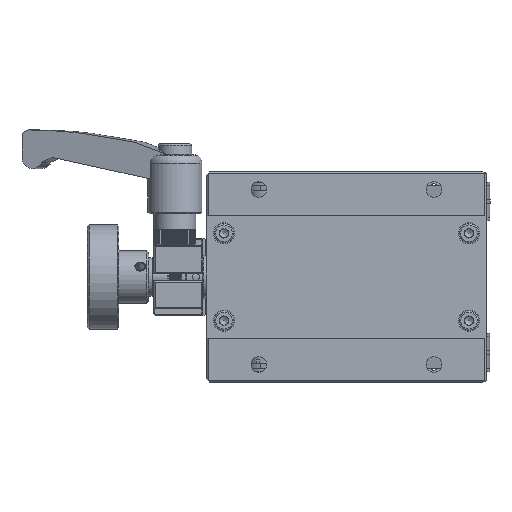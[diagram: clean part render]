
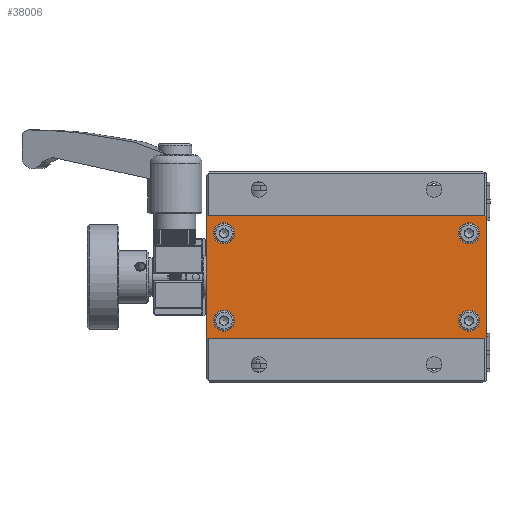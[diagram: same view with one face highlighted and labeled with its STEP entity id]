
A CAD part, front view. The second image highlights one B-rep face of the part: STEP entity #38006.
In plain terms, the highlighted planar face has unit normal (0, -1, 0).
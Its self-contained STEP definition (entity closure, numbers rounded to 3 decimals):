
#1001 = DIRECTION ( 'NONE',  ( 0., -1., 0. ) ) ;
#4164 = CIRCLE ( 'NONE', #46686, 3. ) ;
#4574 = CARTESIAN_POINT ( 'NONE',  ( 0., -42.176, -47.5 ) ) ;
#5066 = FACE_BOUND ( 'NONE', #56378, .T. ) ;
#5696 = VECTOR ( 'NONE', #68069, 1000. ) ;
#7077 = ORIENTED_EDGE ( 'NONE', *, *, #7969, .F. ) ;
#7969 = EDGE_CURVE ( 'NONE', #60260, #61402, #10167, .T. ) ;
#9304 = ORIENTED_EDGE ( 'NONE', *, *, #73641, .T. ) ;
#10167 = LINE ( 'NONE', #15847, #70661 ) ;
#10248 = CARTESIAN_POINT ( 'NONE',  ( 5., -42.176, -17.5 ) ) ;
#13299 = VERTEX_POINT ( 'NONE', #42228 ) ;
#14542 = CARTESIAN_POINT ( 'NONE',  ( 0., -42.176, -12.5 ) ) ;
#15847 = CARTESIAN_POINT ( 'NONE',  ( 0., -42.176, -12.5 ) ) ;
#16480 = FACE_BOUND ( 'NONE', #33137, .T. ) ;
#16848 = DIRECTION ( 'NONE',  ( 0., 0., 1. ) ) ;
#17105 = CIRCLE ( 'NONE', #65686, 3. ) ;
#17213 = DIRECTION ( 'NONE',  ( 0., -1., 0. ) ) ;
#17216 = PLANE ( 'NONE',  #52217 ) ;
#21203 = EDGE_CURVE ( 'NONE', #13299, #13299, #17105, .T. ) ;
#24177 = ORIENTED_EDGE ( 'NONE', *, *, #55712, .F. ) ;
#25887 = LINE ( 'NONE', #55523, #60552 ) ;
#27078 = CARTESIAN_POINT ( 'NONE',  ( 75., -42.176, -17.5 ) ) ;
#27886 = VERTEX_POINT ( 'NONE', #68539 ) ;
#28787 = ORIENTED_EDGE ( 'NONE', *, *, #69512, .F. ) ;
#33137 = EDGE_LOOP ( 'NONE', ( #65825 ) ) ;
#33147 = DIRECTION ( 'NONE',  ( 0., 0., 1. ) ) ;
#33521 = DIRECTION ( 'NONE',  ( 0., -1., 0. ) ) ;
#34712 = DIRECTION ( 'NONE',  ( 0., 1., 0. ) ) ;
#34818 = ORIENTED_EDGE ( 'NONE', *, *, #21203, .F. ) ;
#35095 = VECTOR ( 'NONE', #53299, 1000. ) ;
#38006 = ADVANCED_FACE ( 'NONE', ( #57191, #74652, #39687, #5066, #16480 ), #17216, .F. ) ;
#38682 = DIRECTION ( 'NONE',  ( 1., 0., 0. ) ) ;
#39687 = FACE_OUTER_BOUND ( 'NONE', #61518, .T. ) ;
#40422 = CARTESIAN_POINT ( 'NONE',  ( 0., -42.176, -47.5 ) ) ;
#41970 = AXIS2_PLACEMENT_3D ( 'NONE', #27078, #33521, #33147 ) ;
#42037 = ORIENTED_EDGE ( 'NONE', *, *, #58795, .T. ) ;
#42103 = AXIS2_PLACEMENT_3D ( 'NONE', #10248, #74852, #68405 ) ;
#42228 = CARTESIAN_POINT ( 'NONE',  ( 75., -42.176, -39.5 ) ) ;
#44896 = LINE ( 'NONE', #4574, #5696 ) ;
#45273 = CARTESIAN_POINT ( 'NONE',  ( 80., -42.176, -12.5 ) ) ;
#45932 = DIRECTION ( 'NONE',  ( 0., 0., 1. ) ) ;
#46686 = AXIS2_PLACEMENT_3D ( 'NONE', #68730, #1001, #45932 ) ;
#51497 = CARTESIAN_POINT ( 'NONE',  ( 75., -42.176, -42.5 ) ) ;
#51784 = ORIENTED_EDGE ( 'NONE', *, *, #64970, .F. ) ;
#52217 = AXIS2_PLACEMENT_3D ( 'NONE', #40422, #34712, #57556 ) ;
#52642 = EDGE_CURVE ( 'NONE', #67762, #67762, #61370, .T. ) ;
#53104 = EDGE_LOOP ( 'NONE', ( #34818 ) ) ;
#53299 = DIRECTION ( 'NONE',  ( 1., 0., 0. ) ) ;
#54881 = CARTESIAN_POINT ( 'NONE',  ( 80., -42.176, -47.5 ) ) ;
#55523 = CARTESIAN_POINT ( 'NONE',  ( 80., -42.176, -47.5 ) ) ;
#55712 = EDGE_CURVE ( 'NONE', #70983, #60260, #44896, .T. ) ;
#56378 = EDGE_LOOP ( 'NONE', ( #51784 ) ) ;
#57131 = CARTESIAN_POINT ( 'NONE',  ( 75., -42.176, -14.5 ) ) ;
#57191 = FACE_BOUND ( 'NONE', #53104, .T. ) ;
#57556 = DIRECTION ( 'NONE',  ( 0., 0., 1. ) ) ;
#58795 = EDGE_CURVE ( 'NONE', #60486, #61402, #25887, .T. ) ;
#58894 = CARTESIAN_POINT ( 'NONE',  ( 0., -42.176, -47.5 ) ) ;
#58998 = CARTESIAN_POINT ( 'NONE',  ( 0., -42.176, -47.5 ) ) ;
#60260 = VERTEX_POINT ( 'NONE', #14542 ) ;
#60486 = VERTEX_POINT ( 'NONE', #54881 ) ;
#60552 = VECTOR ( 'NONE', #61985, 1000. ) ;
#61370 = CIRCLE ( 'NONE', #41970, 3. ) ;
#61402 = VERTEX_POINT ( 'NONE', #45273 ) ;
#61518 = EDGE_LOOP ( 'NONE', ( #42037, #7077, #24177, #9304 ) ) ;
#61985 = DIRECTION ( 'NONE',  ( 0., 0., 1. ) ) ;
#62490 = VERTEX_POINT ( 'NONE', #74982 ) ;
#63717 = EDGE_LOOP ( 'NONE', ( #28787 ) ) ;
#64970 = EDGE_CURVE ( 'NONE', #62490, #62490, #4164, .T. ) ;
#65686 = AXIS2_PLACEMENT_3D ( 'NONE', #51497, #17213, #16848 ) ;
#65825 = ORIENTED_EDGE ( 'NONE', *, *, #52642, .F. ) ;
#67762 = VERTEX_POINT ( 'NONE', #57131 ) ;
#68069 = DIRECTION ( 'NONE',  ( 0., 0., 1. ) ) ;
#68405 = DIRECTION ( 'NONE',  ( 0., 0., 1. ) ) ;
#68539 = CARTESIAN_POINT ( 'NONE',  ( 5., -42.176, -14.5 ) ) ;
#68730 = CARTESIAN_POINT ( 'NONE',  ( 5., -42.176, -42.5 ) ) ;
#69512 = EDGE_CURVE ( 'NONE', #27886, #27886, #74877, .T. ) ;
#70661 = VECTOR ( 'NONE', #38682, 1000. ) ;
#70983 = VERTEX_POINT ( 'NONE', #58894 ) ;
#71511 = LINE ( 'NONE', #58998, #35095 ) ;
#73641 = EDGE_CURVE ( 'NONE', #70983, #60486, #71511, .T. ) ;
#74652 = FACE_BOUND ( 'NONE', #63717, .T. ) ;
#74852 = DIRECTION ( 'NONE',  ( 0., -1., 0. ) ) ;
#74877 = CIRCLE ( 'NONE', #42103, 3. ) ;
#74982 = CARTESIAN_POINT ( 'NONE',  ( 5., -42.176, -39.5 ) ) ;
